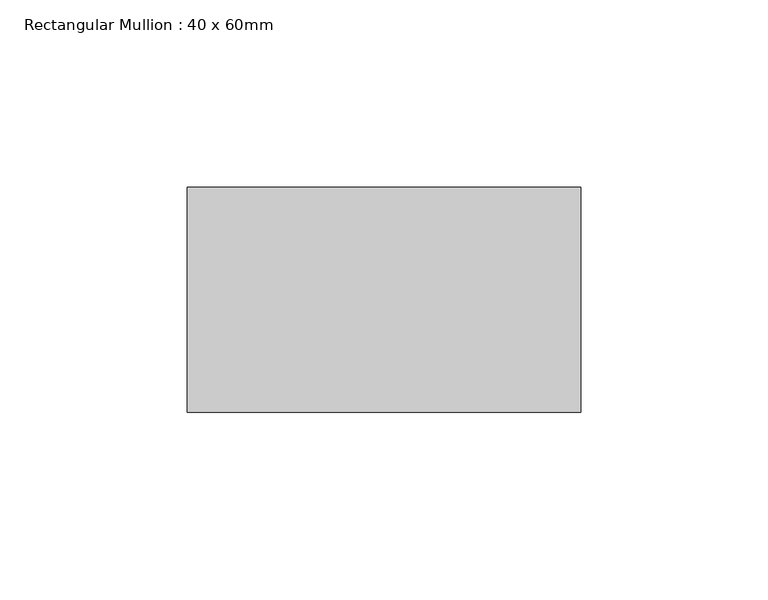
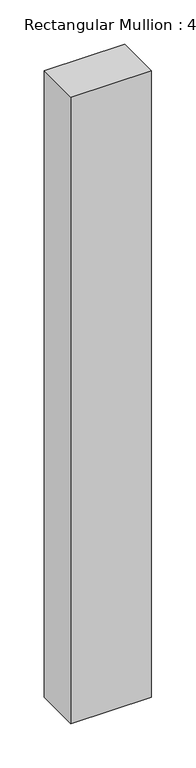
"""IFC4 building model written with IfcOpenShell, lengths in millimetres: member geometry, Rectangular Mullion : 40 x 60mm."""

from ifc_helpers import new_model, si_unit, frame, origin, place, context, project, spatial, polyline, outline, extrude, source, transform, mapped, element, save


def rectangular_mullion_40_x_60mm_9aa69fbc(model_context):
    return source(origin(), model_context, "Body", "SweptSolid", [
        extrude(outline(polyline([(0.0, -10.0), (0.0, -70.0), (-105.0, -70.0), (-105.0, -10.0), (0.0, -10.0)])), frame((0.0, 0.0, -864.0023601), z_axis=(0.0, 0.0, 1.0), x_axis=(1.0, 0.0, 0.0)), (0.0, 0.0, 1.0), 864.0023601),
    ])


if __name__ == "__main__":
    model = new_model("IFC4")
    model_context = context("Model", 3, world=origin())
    ifc_project = project(units=[si_unit("LENGTHUNIT", "METRE", prefix="MILLI")], contexts=[model_context])
    site = spatial("IfcSite", under=ifc_project)
    building = spatial("IfcBuilding", under=site)
    placement = place(None, origin())
    rectangular_mullion_40_x_60mm_shape = rectangular_mullion_40_x_60mm_9aa69fbc(model_context)
    element("IfcMember", 1, ObjectType="Rectangular Mullion : 40 x 60mm", at=placement, inside=building, context=model_context, shape_type="MappedRepresentation", body=[
        mapped(rectangular_mullion_40_x_60mm_shape, transform((0.0, 0.0, 0.0), x_axis=(1.0, 0.0, 0.0), y_axis=(0.0, 1.0, 0.0), z_axis=(0.0, 0.0, 1.0))),
    ])
    save(model, "model.ifc")
